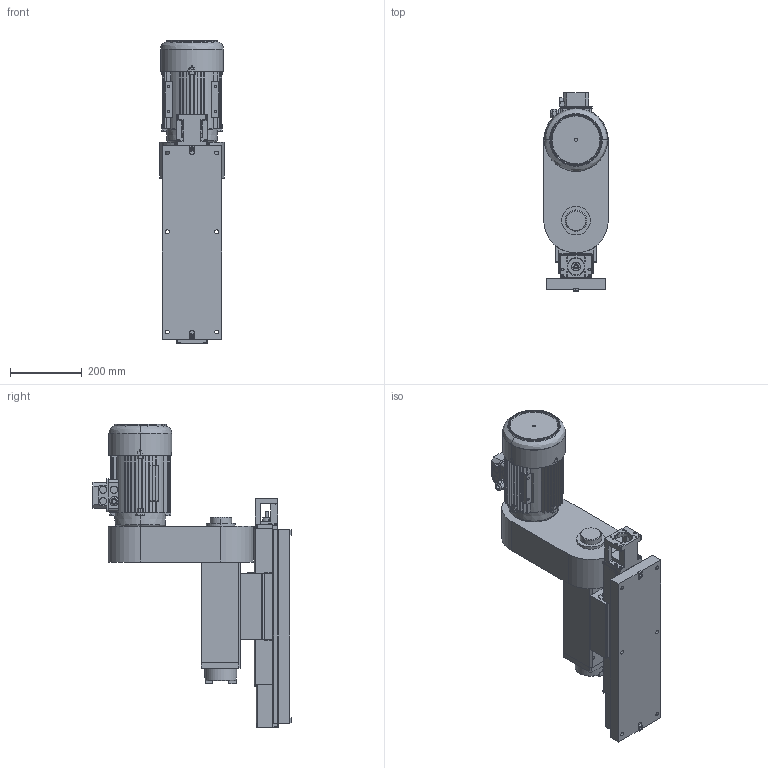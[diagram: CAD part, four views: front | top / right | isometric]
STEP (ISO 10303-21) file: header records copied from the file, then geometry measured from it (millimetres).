
FILE_DESCRIPTION (( 'STEP AP214' ), '1' );
FILE_NAME ('BR 11 ISO 40-ASSEMBLY.STEP', '2026-03-11T06:52:23', ( '' ), ( '' ), 'SwSTEP 2.0', 'SolidWorks 2014', '' );
FILE_SCHEMA (( 'AUTOMOTIVE_DESIGN' ));
Length unit declared in the file: millimetre
Products named in the file (40): bs32097a; 915460.01_915460.01.02_2; 915460.04.01_2; 90NoNoIE34Lfan; 915460.A01; 915460.01_915460.01.01; MS-31944; Medbringarklack; KK86_FILE; 915460.A01_2; M20; 90IP55cover; 90B14shields; Hus; bs41027; 915460.01_915460.01.02; KK8610P540A1F0000; 915460 L-max; 915460.03.01_Default_As Machined_; BR11_dummy; IEC 90 1,5 kW; 915460; 90L B14B14; 915460.A02_2; framgavel_FOR HOMEPAGE; 915460.04.01; 915460.A02; 90L-24x50-0; 915460.01_915460.01.01_2; MT90LB141-body; KK86_FILE_1; 915460.03.01_Default_As Machined__2; BR 11 ISO 40-ASSEMBLY; bs12496a; Skyddskåpa; bs42368; MS12034; MS12033_2021-04-30 IEC90; 0843-spindel-110-spindel_ISO40_kyln_FOR HOMEPAGE; MS12035
Assembly tree (46 placements, depth 6):
  BR 11 ISO 40-ASSEMBLY
    IEC 90 1,5 kW
      MT90LB141-body
      M20
      90IP55cover
      90L B14B14
      90L-24x50-0
      90NoNoIE34Lfan
      90B14shields
    MS12033_2021-04-30 IEC90
      BR11_dummy
      MS12034
        0843-spindel-110-spindel_ISO40_kyln_FOR HOMEPAGE
        Medbringarklack  x2
      MS12035
        KK8610P540A1F0000
          KK86_FILE
          KK86_FILE_1  x2
        bs12496a
        bs32097a
        MS-31944  x2
        bs42368  x2
        915460
          915460.A01
            915460.01_915460.01.01
            915460.03.01_Default_As Machined_
            915460.04.01  x2
          915460.A02
            915460.01_915460.01.02
        915460 L-max
          915460.A01_2
            915460.01_915460.01.01_2
            915460.03.01_Default_As Machined__2
            915460.04.01_2  x2
          915460.A02_2
            915460.01_915460.01.02_2
        bs41027  x2
      framgavel_FOR HOMEPAGE
      Hus
      Skyddskåpa
Bounding box: 180 x 553.2 x 848 mm (x, y, z)
Volume: 16945627 mm3; surface area: 1950192.2 mm2
Topology: 36 solids, 49 shells, 2446 faces, 6397 edges, 4075 vertices
Faces by surface type: plane 1247, cylinder 920, cone 199, bspline 76, torus 4
Entity records: 86952 total; most frequent: CARTESIAN_POINT 20037, DIRECTION 10693, ORIENTED_EDGE 10460, EDGE_CURVE 5234, AXIS2_PLACEMENT_3D 3808, VERTEX_POINT 3409, VECTOR 3077, LINE 3077
